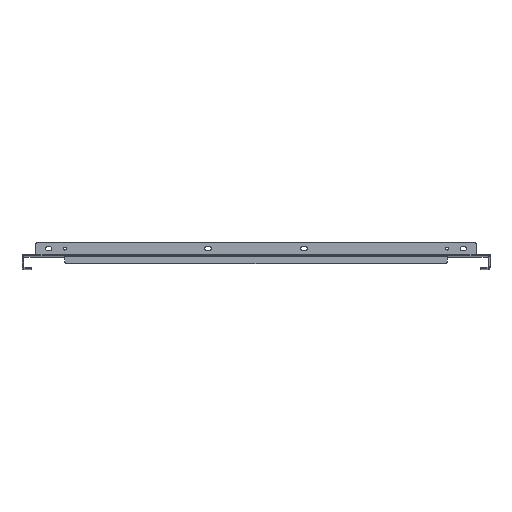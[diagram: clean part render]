
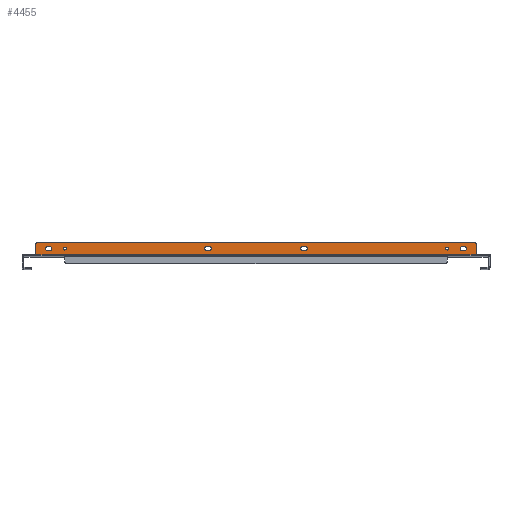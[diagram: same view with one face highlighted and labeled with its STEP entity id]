
A CAD part, top view. The second image highlights one B-rep face of the part: STEP entity #4455.
In plain terms, the highlighted planar face has unit normal (0, 0, 1).
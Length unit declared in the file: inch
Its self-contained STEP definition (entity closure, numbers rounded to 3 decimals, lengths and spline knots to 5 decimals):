
#1460=DIRECTION('',(-1.,0.,0.));
#1461=VECTOR('',#1460,40.807);
#1462=CARTESIAN_POINT('',(20.4035,0.07,-74.155));
#1463=LINE('',#1462,#1461);
#1707=CARTESIAN_POINT('',(20.1535,1.,-74.155));
#1708=DIRECTION('',(0.,0.,1.));
#1709=DIRECTION('',(1.,0.,0.));
#1710=AXIS2_PLACEMENT_3D('',#1707,#1708,#1709);
#1715=DIRECTION('',(0.,-1.,0.));
#1716=VECTOR('',#1715,0.93);
#1717=CARTESIAN_POINT('',(20.4035,1.,-74.155));
#1718=LINE('',#1717,#1716);
#1722=DIRECTION('',(0.,1.,0.));
#1723=VECTOR('',#1722,0.93);
#1724=CARTESIAN_POINT('',(-20.4035,0.07,-74.155));
#1725=LINE('',#1724,#1723);
#1729=CARTESIAN_POINT('',(-20.1535,1.,-74.155));
#1730=DIRECTION('',(0.,0.,1.));
#1731=DIRECTION('',(0.,1.,0.));
#1732=AXIS2_PLACEMENT_3D('',#1729,#1730,#1731);
#1737=DIRECTION('',(1.,0.,0.));
#1738=VECTOR('',#1737,40.307);
#1739=CARTESIAN_POINT('',(-20.1535,1.25,-74.155));
#1740=LINE('',#1739,#1738);
#1744=CARTESIAN_POINT('',(19.3334,0.6875,-74.155));
#1745=DIRECTION('',(0.,0.,1.));
#1746=DIRECTION('',(0.,-1.,0.));
#1747=AXIS2_PLACEMENT_3D('',#1744,#1745,#1746);
#1752=DIRECTION('',(1.,0.,0.));
#1753=VECTOR('',#1752,0.281);
#1754=CARTESIAN_POINT('',(19.0524,0.8595,-74.155));
#1755=LINE('',#1754,#1753);
#1759=CARTESIAN_POINT('',(19.0524,0.6875,-74.155));
#1760=DIRECTION('',(0.,0.,1.));
#1761=DIRECTION('',(0.,1.,0.));
#1762=AXIS2_PLACEMENT_3D('',#1759,#1760,#1761);
#1767=DIRECTION('',(-1.,0.,0.));
#1768=VECTOR('',#1767,0.281);
#1769=CARTESIAN_POINT('',(19.3334,0.5155,-74.155));
#1770=LINE('',#1769,#1768);
#1774=DIRECTION('',(1.,0.,0.));
#1775=VECTOR('',#1774,0.281);
#1776=CARTESIAN_POINT('',(-19.3334,0.8595,-74.155));
#1777=LINE('',#1776,#1775);
#1781=CARTESIAN_POINT('',(-19.3334,0.6875,-74.155));
#1782=DIRECTION('',(0.,0.,1.));
#1783=DIRECTION('',(0.,1.,0.));
#1784=AXIS2_PLACEMENT_3D('',#1781,#1782,#1783);
#1789=DIRECTION('',(-1.,0.,0.));
#1790=VECTOR('',#1789,0.281);
#1791=CARTESIAN_POINT('',(-19.0524,0.5155,-74.155));
#1792=LINE('',#1791,#1790);
#1796=CARTESIAN_POINT('',(-19.0524,0.6875,-74.155));
#1797=DIRECTION('',(0.,0.,1.));
#1798=DIRECTION('',(0.,-1.,0.));
#1799=AXIS2_PLACEMENT_3D('',#1796,#1797,#1798);
#1804=CARTESIAN_POINT('',(17.6929,0.6875,-74.155));
#1805=DIRECTION('',(0.,0.,1.));
#1806=DIRECTION('',(1.,0.,0.));
#1807=AXIS2_PLACEMENT_3D('',#1804,#1805,#1806);
#1812=CARTESIAN_POINT('',(17.6929,0.6875,-74.155));
#1813=DIRECTION('',(0.,0.,1.));
#1814=DIRECTION('',(-1.,0.,0.));
#1815=AXIS2_PLACEMENT_3D('',#1812,#1813,#1814);
#1820=CARTESIAN_POINT('',(-17.6929,0.6875,-74.155));
#1821=DIRECTION('',(0.,0.,1.));
#1822=DIRECTION('',(1.,0.,0.));
#1823=AXIS2_PLACEMENT_3D('',#1820,#1821,#1822);
#1828=CARTESIAN_POINT('',(-17.6929,0.6875,-74.155));
#1829=DIRECTION('',(0.,0.,1.));
#1830=DIRECTION('',(-1.,0.,0.));
#1831=AXIS2_PLACEMENT_3D('',#1828,#1829,#1830);
#1836=DIRECTION('',(-1.,0.,0.));
#1837=VECTOR('',#1836,0.281);
#1838=CARTESIAN_POINT('',(4.56963,0.8595,-74.155));
#1839=LINE('',#1838,#1837);
#1843=CARTESIAN_POINT('',(4.28863,0.6875,-74.155));
#1844=DIRECTION('',(0.,0.,-1.));
#1845=DIRECTION('',(0.,-1.,0.));
#1846=AXIS2_PLACEMENT_3D('',#1843,#1844,#1845);
#1851=DIRECTION('',(1.,0.,0.));
#1852=VECTOR('',#1851,0.281);
#1853=CARTESIAN_POINT('',(4.28863,0.5155,-74.155));
#1854=LINE('',#1853,#1852);
#1858=CARTESIAN_POINT('',(4.56963,0.6875,-74.155));
#1859=DIRECTION('',(0.,0.,-1.));
#1860=DIRECTION('',(0.,1.,0.));
#1861=AXIS2_PLACEMENT_3D('',#1858,#1859,#1860);
#1866=DIRECTION('',(-1.,0.,0.));
#1867=VECTOR('',#1866,0.281);
#1868=CARTESIAN_POINT('',(-4.28863,0.8595,-74.155));
#1869=LINE('',#1868,#1867);
#1873=CARTESIAN_POINT('',(-4.56963,0.6875,-74.155));
#1874=DIRECTION('',(0.,0.,-1.));
#1875=DIRECTION('',(0.,-1.,0.));
#1876=AXIS2_PLACEMENT_3D('',#1873,#1874,#1875);
#1881=DIRECTION('',(1.,0.,0.));
#1882=VECTOR('',#1881,0.281);
#1883=CARTESIAN_POINT('',(-4.56963,0.5155,-74.155));
#1884=LINE('',#1883,#1882);
#1888=CARTESIAN_POINT('',(-4.28863,0.6875,-74.155));
#1889=DIRECTION('',(0.,0.,-1.));
#1890=DIRECTION('',(0.,1.,0.));
#1891=AXIS2_PLACEMENT_3D('',#1888,#1889,#1890);
#2427=CARTESIAN_POINT('',(20.4035,0.07,-74.155));
#2428=CARTESIAN_POINT('',(-20.4035,0.07,-74.155));
#2429=VERTEX_POINT('',#2427);
#2430=VERTEX_POINT('',#2428);
#2467=CARTESIAN_POINT('',(20.4035,1.,-74.155));
#2468=VERTEX_POINT('',#2467);
#2469=CARTESIAN_POINT('',(20.1535,1.25,-74.155));
#2470=VERTEX_POINT('',#2469);
#2475=CARTESIAN_POINT('',(-20.1535,1.25,-74.155));
#2476=VERTEX_POINT('',#2475);
#2477=CARTESIAN_POINT('',(-20.4035,1.,-74.155));
#2478=VERTEX_POINT('',#2477);
#2511=CARTESIAN_POINT('',(19.3334,0.5155,-74.155));
#2512=CARTESIAN_POINT('',(19.3334,0.8595,-74.155));
#2513=VERTEX_POINT('',#2511);
#2514=VERTEX_POINT('',#2512);
#2515=CARTESIAN_POINT('',(19.0524,0.5155,-74.155));
#2516=VERTEX_POINT('',#2515);
#2517=CARTESIAN_POINT('',(19.0524,0.8595,-74.155));
#2518=VERTEX_POINT('',#2517);
#2519=CARTESIAN_POINT('',(-19.3334,0.8595,-74.155));
#2520=CARTESIAN_POINT('',(-19.0524,0.8595,-74.155));
#2521=VERTEX_POINT('',#2519);
#2522=VERTEX_POINT('',#2520);
#2523=CARTESIAN_POINT('',(-19.0524,0.5155,-74.155));
#2524=VERTEX_POINT('',#2523);
#2525=CARTESIAN_POINT('',(-19.3334,0.5155,-74.155));
#2526=VERTEX_POINT('',#2525);
#2575=CARTESIAN_POINT('',(17.8334,0.6875,-74.155));
#2576=CARTESIAN_POINT('',(17.5524,0.6875,-74.155));
#2577=VERTEX_POINT('',#2575);
#2578=VERTEX_POINT('',#2576);
#2583=CARTESIAN_POINT('',(-17.5524,0.6875,-74.155));
#2584=CARTESIAN_POINT('',(-17.8334,0.6875,-74.155));
#2585=VERTEX_POINT('',#2583);
#2586=VERTEX_POINT('',#2584);
#2727=CARTESIAN_POINT('',(-4.28863,0.8595,-74.155));
#2728=CARTESIAN_POINT('',(-4.56963,0.8595,-74.155));
#2729=VERTEX_POINT('',#2727);
#2730=VERTEX_POINT('',#2728);
#2731=CARTESIAN_POINT('',(-4.56963,0.5155,-74.155));
#2732=VERTEX_POINT('',#2731);
#2733=CARTESIAN_POINT('',(-4.28863,0.5155,-74.155));
#2734=VERTEX_POINT('',#2733);
#2735=CARTESIAN_POINT('',(4.56963,0.8595,-74.155));
#2736=CARTESIAN_POINT('',(4.28863,0.8595,-74.155));
#2737=VERTEX_POINT('',#2735);
#2738=VERTEX_POINT('',#2736);
#2739=CARTESIAN_POINT('',(4.28863,0.5155,-74.155));
#2740=VERTEX_POINT('',#2739);
#2741=CARTESIAN_POINT('',(4.56963,0.5155,-74.155));
#2742=VERTEX_POINT('',#2741);
#4389=CARTESIAN_POINT('',(-21.4795,-0.104,-74.155));
#4390=DIRECTION('',(0.,0.,-1.));
#4391=DIRECTION('',(-1.,0.,0.));
#4392=AXIS2_PLACEMENT_3D('',#4389,#4390,#4391);
#4393=PLANE('',#4392);
#4394=ORIENTED_EDGE('',*,*,#4356,.F.);
#4395=ORIENTED_EDGE('',*,*,#4372,.T.);
#4396=ORIENTED_EDGE('',*,*,#4197,.T.);
#4397=ORIENTED_EDGE('',*,*,#4256,.T.);
#4398=ORIENTED_EDGE('',*,*,#4273,.F.);
#4400=ORIENTED_EDGE('',*,*,#4399,.T.);
#4401=EDGE_LOOP('',(#4394,#4395,#4396,#4397,#4398,#4400));
#4402=FACE_OUTER_BOUND('',#4401,.F.);
#4404=ORIENTED_EDGE('',*,*,#4403,.T.);
#4406=ORIENTED_EDGE('',*,*,#4405,.F.);
#4408=ORIENTED_EDGE('',*,*,#4407,.T.);
#4410=ORIENTED_EDGE('',*,*,#4409,.F.);
#4411=EDGE_LOOP('',(#4404,#4406,#4408,#4410));
#4412=FACE_BOUND('',#4411,.F.);
#4414=ORIENTED_EDGE('',*,*,#4413,.F.);
#4416=ORIENTED_EDGE('',*,*,#4415,.T.);
#4418=ORIENTED_EDGE('',*,*,#4417,.F.);
#4420=ORIENTED_EDGE('',*,*,#4419,.T.);
#4421=EDGE_LOOP('',(#4414,#4416,#4418,#4420));
#4422=FACE_BOUND('',#4421,.F.);
#4424=ORIENTED_EDGE('',*,*,#4423,.T.);
#4426=ORIENTED_EDGE('',*,*,#4425,.T.);
#4427=EDGE_LOOP('',(#4424,#4426));
#4428=FACE_BOUND('',#4427,.F.);
#4430=ORIENTED_EDGE('',*,*,#4429,.T.);
#4432=ORIENTED_EDGE('',*,*,#4431,.T.);
#4433=EDGE_LOOP('',(#4430,#4432));
#4434=FACE_BOUND('',#4433,.F.);
#4436=ORIENTED_EDGE('',*,*,#4435,.T.);
#4438=ORIENTED_EDGE('',*,*,#4437,.F.);
#4440=ORIENTED_EDGE('',*,*,#4439,.T.);
#4442=ORIENTED_EDGE('',*,*,#4441,.F.);
#4443=EDGE_LOOP('',(#4436,#4438,#4440,#4442));
#4444=FACE_BOUND('',#4443,.F.);
#4446=ORIENTED_EDGE('',*,*,#4445,.T.);
#4448=ORIENTED_EDGE('',*,*,#4447,.F.);
#4450=ORIENTED_EDGE('',*,*,#4449,.T.);
#4452=ORIENTED_EDGE('',*,*,#4451,.F.);
#4453=EDGE_LOOP('',(#4446,#4448,#4450,#4452));
#4454=FACE_BOUND('',#4453,.F.);
#1711=CIRCLE('',#1710,0.25);
#1733=CIRCLE('',#1732,0.25);
#1748=CIRCLE('',#1747,0.172);
#1763=CIRCLE('',#1762,0.172);
#1785=CIRCLE('',#1784,0.172);
#1800=CIRCLE('',#1799,0.172);
#1808=CIRCLE('',#1807,0.1405);
#1816=CIRCLE('',#1815,0.1405);
#1824=CIRCLE('',#1823,0.1405);
#1832=CIRCLE('',#1831,0.1405);
#1847=CIRCLE('',#1846,0.172);
#1862=CIRCLE('',#1861,0.172);
#1877=CIRCLE('',#1876,0.172);
#1892=CIRCLE('',#1891,0.172);
#4197=EDGE_CURVE('',#2429,#2430,#1463,.T.);
#4256=EDGE_CURVE('',#2430,#2478,#1725,.T.);
#4273=EDGE_CURVE('',#2476,#2478,#1733,.T.);
#4356=EDGE_CURVE('',#2468,#2470,#1711,.T.);
#4372=EDGE_CURVE('',#2468,#2429,#1718,.T.);
#4399=EDGE_CURVE('',#2476,#2470,#1740,.T.);
#4403=EDGE_CURVE('',#2513,#2514,#1748,.T.);
#4405=EDGE_CURVE('',#2518,#2514,#1755,.T.);
#4407=EDGE_CURVE('',#2518,#2516,#1763,.T.);
#4409=EDGE_CURVE('',#2513,#2516,#1770,.T.);
#4413=EDGE_CURVE('',#2521,#2522,#1777,.T.);
#4415=EDGE_CURVE('',#2521,#2526,#1785,.T.);
#4417=EDGE_CURVE('',#2524,#2526,#1792,.T.);
#4419=EDGE_CURVE('',#2524,#2522,#1800,.T.);
#4423=EDGE_CURVE('',#2577,#2578,#1808,.T.);
#4425=EDGE_CURVE('',#2578,#2577,#1816,.T.);
#4429=EDGE_CURVE('',#2585,#2586,#1824,.T.);
#4431=EDGE_CURVE('',#2586,#2585,#1832,.T.);
#4435=EDGE_CURVE('',#2737,#2738,#1839,.T.);
#4437=EDGE_CURVE('',#2740,#2738,#1847,.T.);
#4439=EDGE_CURVE('',#2740,#2742,#1854,.T.);
#4441=EDGE_CURVE('',#2737,#2742,#1862,.T.);
#4445=EDGE_CURVE('',#2729,#2730,#1869,.T.);
#4447=EDGE_CURVE('',#2732,#2730,#1877,.T.);
#4449=EDGE_CURVE('',#2732,#2734,#1884,.T.);
#4451=EDGE_CURVE('',#2729,#2734,#1892,.T.);
#4455=ADVANCED_FACE('',(#4402,#4412,#4422,#4428,#4434,#4444,#4454),#4393,.F.);
